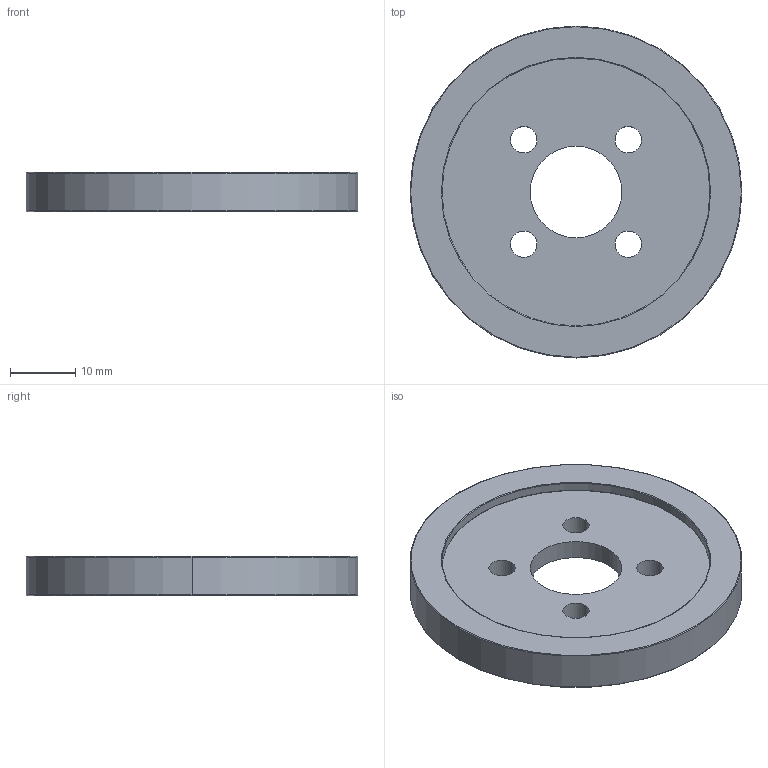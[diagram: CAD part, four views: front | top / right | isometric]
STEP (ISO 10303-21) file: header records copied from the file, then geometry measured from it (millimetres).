
FILE_DESCRIPTION (( 'STEP AP203' ), '1' );
FILE_NAME ('3603-0014-0102 Clear Acrylic Wheel.STEP', '2022-12-19T22:10:24', ( '' ), ( '' ), 'SwSTEP 2.0', 'SolidWorks 2016', '' );
FILE_SCHEMA (( 'CONFIG_CONTROL_DESIGN' ));
Length unit declared in the file: millimetre
Products named in the file (1): 3603-0014-0102 Clear Acrylic Wheel
Bounding box: 50.8 x 50.8 x 6 mm (x, y, z)
Volume: 7582 mm3; surface area: 8129.6 mm2
Topology: 2 solids, 2 shells, 38 faces, 84 edges, 52 vertices
Faces by surface type: cylinder 20, torus 12, plane 6
Entity records: 1175 total; most frequent: DIRECTION 226, CARTESIAN_POINT 175, ORIENTED_EDGE 168, AXIS2_PLACEMENT_3D 103, EDGE_CURVE 84, CIRCLE 64, VERTEX_POINT 52, EDGE_LOOP 52
